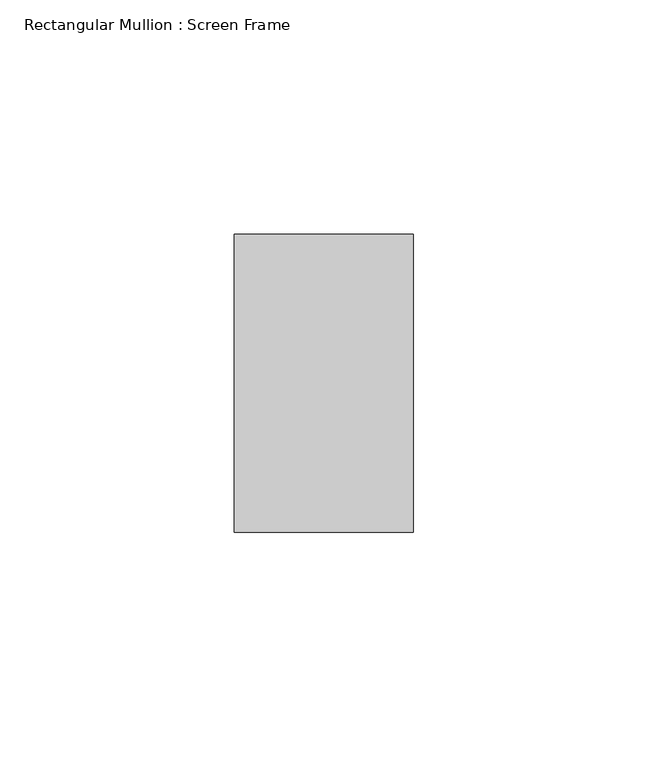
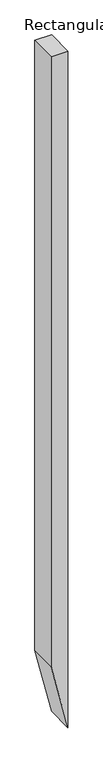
"""IFC4 building model written with IfcOpenShell, lengths in millimetres: member geometry, Rectangular Mullion : Screen Frame."""

from ifc_helpers import new_model, si_unit, frame, origin, place, context, project, spatial, polyline, outline, extrude, source, transform, mapped, element, save


def rectangular_mullion_screen_frame_e0ec7711(model_context):
    return source(origin(), model_context, "Body", "SweptSolid", [
        extrude(outline(polyline([(0.0, 0.0), (0.0, -38.1), (-1458.5798416, -38.1), (-1617.6139535, 0.0), (0.0, 0.0)])), frame((0.0, -31.75, 0.0), z_axis=(0.0, 1.0, 0.0), x_axis=(0.0, 0.0, 1.0)), (0.0, 0.0, 1.0), 63.5),
    ])


if __name__ == "__main__":
    model = new_model("IFC4")
    model_context = context("Model", 3, world=origin())
    ifc_project = project(units=[si_unit("LENGTHUNIT", "METRE", prefix="MILLI")], contexts=[model_context])
    site = spatial("IfcSite", under=ifc_project)
    building = spatial("IfcBuilding", under=site)
    placement = place(None, origin())
    rectangular_mullion_screen_frame_shape = rectangular_mullion_screen_frame_e0ec7711(model_context)
    element("IfcMember", 1, ObjectType="Rectangular Mullion : Screen Frame", at=placement, inside=building, context=model_context, shape_type="MappedRepresentation", body=[
        mapped(rectangular_mullion_screen_frame_shape, transform((0.0, 0.0, 0.0), x_axis=(1.0, 0.0, 0.0), y_axis=(0.0, 1.0, 0.0), z_axis=(0.0, 0.0, 1.0))),
    ])
    save(model, "model.ifc")
